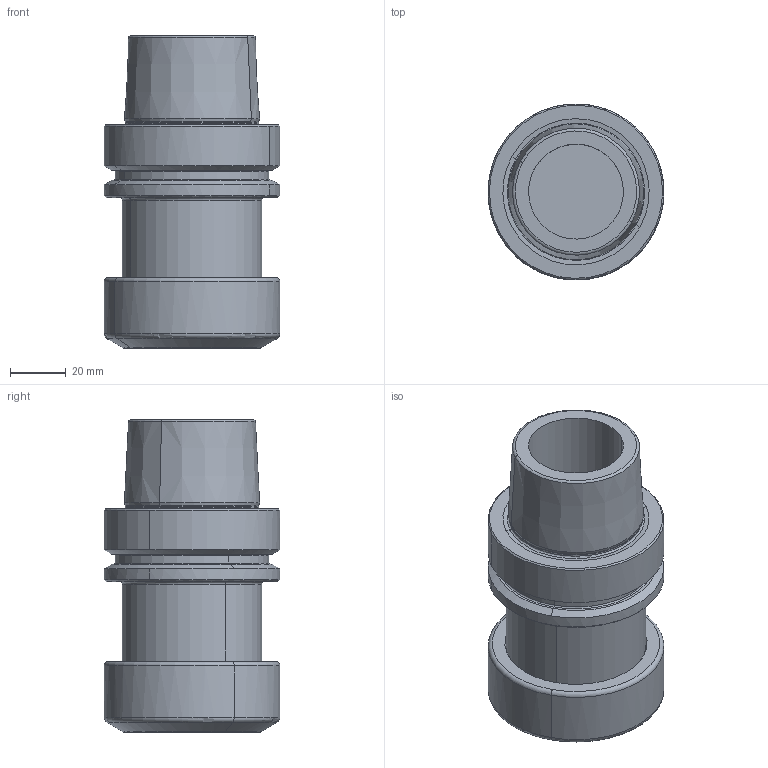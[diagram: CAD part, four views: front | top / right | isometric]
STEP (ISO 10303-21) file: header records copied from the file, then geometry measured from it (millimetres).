
FILE_DESCRIPTION(('CATIA V5 STEP','CAx-IF Rec.Pracs.--- Model Styling and Organization---1.2---2011-12-15'),'2;1');
FILE_NAME('I:\isr\design\admin8\users\weaam_s\4506257.stp','2013-10-22T10:03:41+00:00',('none'),('none'),'CATIA Version 5 Release 21 SP 5 (IN-10)','CATIA V5 STEP AP214','none');
FILE_SCHEMA(('AUTOMOTIVE_DESIGN { 1 0 10303 214 1 1 1 1 }'));
Length unit declared in the file: millimetre
Products named in the file (1): 620046576_0 Holder-Tool HSK E 63 ER40X 80 
Bounding box: 63 x 62.99 x 112 mm (x, y, z)
Volume: 211132.3 mm3; surface area: 33712 mm2
Topology: 1 solids, 1 shells, 61 faces, 165 edges, 113 vertices
Faces by surface type: torus 18, cone 18, cylinder 16, plane 9
Entity records: 1955 total; most frequent: CARTESIAN_POINT 387, ORIENTED_EDGE 330, DIRECTION 285, AXIS2_PLACEMENT_3D 190, EDGE_CURVE 165, CIRCLE 127, VERTEX_POINT 113, EDGE_LOOP 68
